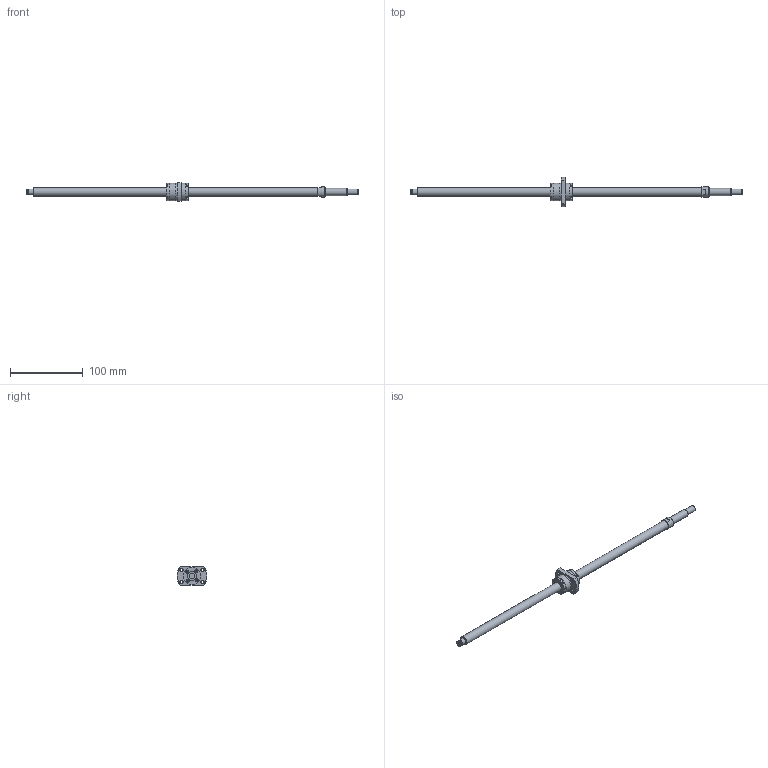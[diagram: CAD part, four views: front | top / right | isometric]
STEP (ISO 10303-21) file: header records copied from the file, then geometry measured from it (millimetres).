
FILE_DESCRIPTION(/* description */ ('STEP AP214'),/* implementation_level */ '2;1');
FILE_NAME(/* name */ 'SRT1210-386R455C7B0X(182.5Processing)',/* time_stamp */ '2026-08-06T15:13:39+02:00',/* author */ ('License CC BY-ND 4.0'),/* organization */ ('CADENAS'),/* preprocessor_version */ 'ST-DEVELOPER v20',/* originating_system */ 'PARTsolutions',/* authorisation */ ' ');
FILE_SCHEMA (('AUTOMOTIVE_DESIGN {1 0 10303 214 3 1 1}'));
Length unit declared in the file: millimetre
Products named in the file (3): SRT1210-386R455C7B0X(182.5Processing); SRT1210-386R470BCt7Processing82Shaft; SRT1210Nut
Assembly tree (2 placements, depth 2):
  SRT1210-386R455C7B0X(182.5Processing)
    SRT1210-386R470BCt7Processing82Shaft
    SRT1210Nut
Bounding box: 455 x 41 x 26 mm (x, y, z)
Volume: 61857.2 mm3; surface area: 22902.1 mm2
Topology: 2 solids, 2 shells, 155 faces, 368 edges, 243 vertices
Faces by surface type: plane 110, cylinder 35, cone 9, torus 1
Full cylindrical faces by diameter (mm): 3.8 x8, 4.5 x4, 7.6 x1, 8 x3, 10 x1, 12 x2, 14 x1, 23.5 x3, 24 x2
Entity records: 4367 total; most frequent: CARTESIAN_POINT 752, DIRECTION 738, ORIENTED_EDGE 664, EDGE_CURVE 332, AXIS2_PLACEMENT_3D 256, VERTEX_POINT 238, LINE 226, VECTOR 226
